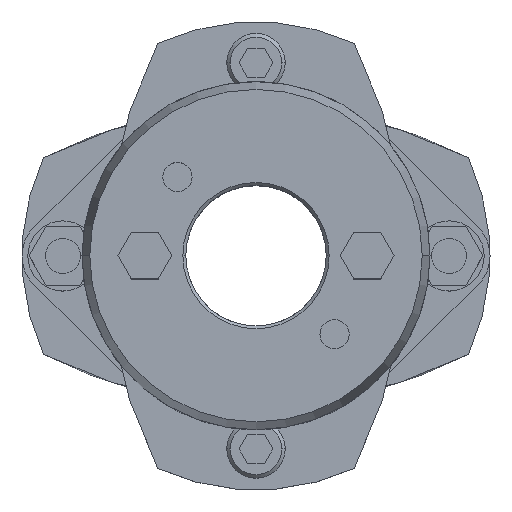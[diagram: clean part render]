
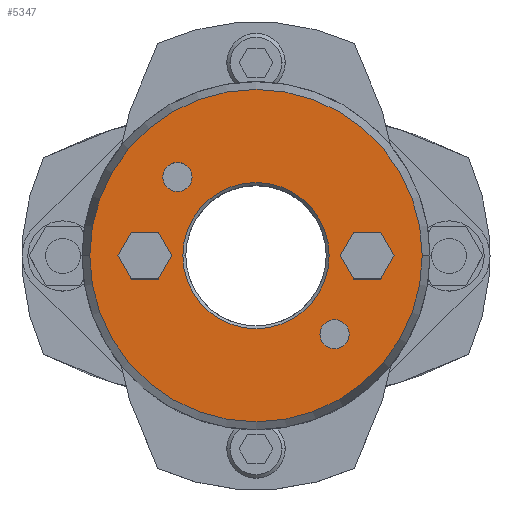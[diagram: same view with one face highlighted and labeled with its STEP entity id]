
A CAD part, top view. The second image highlights one B-rep face of the part: STEP entity #5347.
In plain terms, the highlighted planar face has unit normal (0, 0, 1).
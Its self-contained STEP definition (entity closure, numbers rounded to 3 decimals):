
#857=CARTESIAN_POINT('',(-12.5,0.,35.875));
#858=VERTEX_POINT('',#857);
#874=CARTESIAN_POINT('',(12.5,0.,35.875));
#875=VERTEX_POINT('',#874);
#882=CARTESIAN_POINT('',(0.,0.,35.875));
#883=DIRECTION('',(0.0,0.0,1.0));
#884=DIRECTION('',(-1.0,0.0,0.0));
#885=AXIS2_PLACEMENT_3D('',#882,#883,#884);
#886=CIRCLE('',#885,12.5);
#887=EDGE_CURVE('',#875,#858,#886,.T.);
#1003=CARTESIAN_POINT('',(28.41,0.,35.875));
#1004=VERTEX_POINT('',#1003);
#1013=CARTESIAN_POINT('',(-28.41,0.,35.875));
#1014=VERTEX_POINT('',#1013);
#1015=CARTESIAN_POINT('',(0.,0.,35.875));
#1016=DIRECTION('',(0.0,0.0,-1.0));
#1017=DIRECTION('',(1.0,0.0,0.0));
#1018=AXIS2_PLACEMENT_3D('',#1015,#1016,#1017);
#1019=CIRCLE('',#1018,28.41);
#1020=EDGE_CURVE('',#1004,#1014,#1019,.T.);
#1189=CARTESIAN_POINT('',(-15.935,13.435,35.875));
#1190=VERTEX_POINT('',#1189);
#1206=CARTESIAN_POINT('',(-10.935,13.435,35.875));
#1207=VERTEX_POINT('',#1206);
#1214=CARTESIAN_POINT('',(-13.435,13.435,35.875));
#1215=DIRECTION('',(0.0,0.0,-1.0));
#1216=DIRECTION('',(-1.0,0.0,0.0));
#1217=AXIS2_PLACEMENT_3D('',#1214,#1215,#1216);
#1218=CIRCLE('',#1217,2.5);
#1219=EDGE_CURVE('',#1190,#1207,#1218,.T.);
#1231=CARTESIAN_POINT('',(10.935,-13.435,35.875));
#1232=VERTEX_POINT('',#1231);
#1248=CARTESIAN_POINT('',(15.935,-13.435,35.875));
#1249=VERTEX_POINT('',#1248);
#1256=CARTESIAN_POINT('',(13.435,-13.435,35.875));
#1257=DIRECTION('',(0.0,0.0,-1.0));
#1258=DIRECTION('',(-1.0,0.0,0.0));
#1259=AXIS2_PLACEMENT_3D('',#1256,#1257,#1258);
#1260=CIRCLE('',#1259,2.5);
#1261=EDGE_CURVE('',#1232,#1249,#1260,.T.);
#4473=CARTESIAN_POINT('',(14.381,0.,35.875));
#4474=VERTEX_POINT('',#4473);
#4481=CARTESIAN_POINT('',(16.691,-4.,35.875));
#4482=VERTEX_POINT('',#4481);
#4483=CARTESIAN_POINT('',(16.691,-4.,35.875));
#4484=DIRECTION('',(-0.5,0.866,0.0));
#4485=VECTOR('',#4484,4.619);
#4486=LINE('',#4483,#4485);
#4487=EDGE_CURVE('',#4482,#4474,#4486,.T.);
#4511=CARTESIAN_POINT('',(16.691,4.,35.875));
#4512=VERTEX_POINT('',#4511);
#4519=CARTESIAN_POINT('',(14.381,0.,35.875));
#4520=DIRECTION('',(0.5,0.866,0.0));
#4521=VECTOR('',#4520,4.619);
#4522=LINE('',#4519,#4521);
#4523=EDGE_CURVE('',#4474,#4512,#4522,.T.);
#4542=CARTESIAN_POINT('',(21.309,4.,35.875));
#4543=VERTEX_POINT('',#4542);
#4550=CARTESIAN_POINT('',(16.691,4.,35.875));
#4551=DIRECTION('',(1.0,0.0,0.0));
#4552=VECTOR('',#4551,4.619);
#4553=LINE('',#4550,#4552);
#4554=EDGE_CURVE('',#4512,#4543,#4553,.T.);
#4573=CARTESIAN_POINT('',(23.619,0.,35.875));
#4574=VERTEX_POINT('',#4573);
#4581=CARTESIAN_POINT('',(21.309,4.,35.875));
#4582=DIRECTION('',(0.5,-0.866,0.0));
#4583=VECTOR('',#4582,4.619);
#4584=LINE('',#4581,#4583);
#4585=EDGE_CURVE('',#4543,#4574,#4584,.T.);
#4604=CARTESIAN_POINT('',(21.309,-4.,35.875));
#4605=VERTEX_POINT('',#4604);
#4612=CARTESIAN_POINT('',(23.619,0.,35.875));
#4613=DIRECTION('',(-0.5,-0.866,0.0));
#4614=VECTOR('',#4613,4.619);
#4615=LINE('',#4612,#4614);
#4616=EDGE_CURVE('',#4574,#4605,#4615,.T.);
#4634=CARTESIAN_POINT('',(21.309,-4.,35.875));
#4635=DIRECTION('',(-1.0,0.0,0.0));
#4636=VECTOR('',#4635,4.619);
#4637=LINE('',#4634,#4636);
#4638=EDGE_CURVE('',#4605,#4482,#4637,.T.);
#4673=CARTESIAN_POINT('',(-23.619,0.,35.875));
#4674=VERTEX_POINT('',#4673);
#4681=CARTESIAN_POINT('',(-21.309,-4.,35.875));
#4682=VERTEX_POINT('',#4681);
#4683=CARTESIAN_POINT('',(-21.309,-4.,35.875));
#4684=DIRECTION('',(-0.5,0.866,0.0));
#4685=VECTOR('',#4684,4.619);
#4686=LINE('',#4683,#4685);
#4687=EDGE_CURVE('',#4682,#4674,#4686,.T.);
#4711=CARTESIAN_POINT('',(-21.309,4.,35.875));
#4712=VERTEX_POINT('',#4711);
#4719=CARTESIAN_POINT('',(-23.619,0.,35.875));
#4720=DIRECTION('',(0.5,0.866,0.0));
#4721=VECTOR('',#4720,4.619);
#4722=LINE('',#4719,#4721);
#4723=EDGE_CURVE('',#4674,#4712,#4722,.T.);
#4742=CARTESIAN_POINT('',(-16.691,4.,35.875));
#4743=VERTEX_POINT('',#4742);
#4750=CARTESIAN_POINT('',(-21.309,4.,35.875));
#4751=DIRECTION('',(1.0,0.0,0.0));
#4752=VECTOR('',#4751,4.619);
#4753=LINE('',#4750,#4752);
#4754=EDGE_CURVE('',#4712,#4743,#4753,.T.);
#4773=CARTESIAN_POINT('',(-14.381,0.,35.875));
#4774=VERTEX_POINT('',#4773);
#4781=CARTESIAN_POINT('',(-16.691,4.,35.875));
#4782=DIRECTION('',(0.5,-0.866,0.0));
#4783=VECTOR('',#4782,4.619);
#4784=LINE('',#4781,#4783);
#4785=EDGE_CURVE('',#4743,#4774,#4784,.T.);
#4804=CARTESIAN_POINT('',(-16.691,-4.,35.875));
#4805=VERTEX_POINT('',#4804);
#4812=CARTESIAN_POINT('',(-14.381,0.,35.875));
#4813=DIRECTION('',(-0.5,-0.866,0.0));
#4814=VECTOR('',#4813,4.619);
#4815=LINE('',#4812,#4814);
#4816=EDGE_CURVE('',#4774,#4805,#4815,.T.);
#4834=CARTESIAN_POINT('',(-16.691,-4.,35.875));
#4835=DIRECTION('',(-1.0,0.0,0.0));
#4836=VECTOR('',#4835,4.619);
#4837=LINE('',#4834,#4836);
#4838=EDGE_CURVE('',#4805,#4682,#4837,.T.);
#4864=CARTESIAN_POINT('',(13.435,-13.435,35.875));
#4865=DIRECTION('',(0.0,0.0,-1.0));
#4866=DIRECTION('',(-1.0,0.0,0.0));
#4867=AXIS2_PLACEMENT_3D('',#4864,#4865,#4866);
#4868=CIRCLE('',#4867,2.5);
#4869=EDGE_CURVE('',#1249,#1232,#4868,.T.);
#4898=CARTESIAN_POINT('',(-13.435,13.435,35.875));
#4899=DIRECTION('',(0.0,0.0,-1.0));
#4900=DIRECTION('',(-1.0,0.0,0.0));
#4901=AXIS2_PLACEMENT_3D('',#4898,#4899,#4900);
#4902=CIRCLE('',#4901,2.5);
#4903=EDGE_CURVE('',#1207,#1190,#4902,.T.);
#5294=CARTESIAN_POINT('',(0.,0.,35.875));
#5295=DIRECTION('',(0.0,0.0,-1.0));
#5296=DIRECTION('',(1.0,0.0,0.0));
#5297=AXIS2_PLACEMENT_3D('',#5294,#5295,#5296);
#5298=CIRCLE('',#5297,28.41);
#5299=EDGE_CURVE('',#1014,#1004,#5298,.T.);
#5304=CARTESIAN_POINT('',(-2.364,0.,35.875));
#5305=DIRECTION('',(0.0,0.0,1.0));
#5306=DIRECTION('',(-1.0,0.0,0.0));
#5307=AXIS2_PLACEMENT_3D('',#5304,#5305,#5306);
#5308=PLANE('',#5307);
#5309=ORIENTED_EDGE('',*,*,#5299,.F.);
#5310=ORIENTED_EDGE('',*,*,#1020,.F.);
#5311=EDGE_LOOP('',(#5309,#5310));
#5312=FACE_OUTER_BOUND('',#5311,.T.);
#5313=ORIENTED_EDGE('',*,*,#4487,.T.);
#5314=ORIENTED_EDGE('',*,*,#4523,.T.);
#5315=ORIENTED_EDGE('',*,*,#4554,.T.);
#5316=ORIENTED_EDGE('',*,*,#4585,.T.);
#5317=ORIENTED_EDGE('',*,*,#4616,.T.);
#5318=ORIENTED_EDGE('',*,*,#4638,.T.);
#5319=EDGE_LOOP('',(#5313,#5314,#5315,#5316,#5317,#5318));
#5320=FACE_BOUND('',#5319,.T.);
#5321=ORIENTED_EDGE('',*,*,#4687,.T.);
#5322=ORIENTED_EDGE('',*,*,#4723,.T.);
#5323=ORIENTED_EDGE('',*,*,#4754,.T.);
#5324=ORIENTED_EDGE('',*,*,#4785,.T.);
#5325=ORIENTED_EDGE('',*,*,#4816,.T.);
#5326=ORIENTED_EDGE('',*,*,#4838,.T.);
#5327=EDGE_LOOP('',(#5321,#5322,#5323,#5324,#5325,#5326));
#5328=FACE_BOUND('',#5327,.T.);
#5329=ORIENTED_EDGE('',*,*,#1261,.T.);
#5330=ORIENTED_EDGE('',*,*,#4869,.T.);
#5331=EDGE_LOOP('',(#5329,#5330));
#5332=FACE_BOUND('',#5331,.T.);
#5333=ORIENTED_EDGE('',*,*,#1219,.T.);
#5334=ORIENTED_EDGE('',*,*,#4903,.T.);
#5335=EDGE_LOOP('',(#5333,#5334));
#5336=FACE_BOUND('',#5335,.T.);
#5337=ORIENTED_EDGE('',*,*,#887,.F.);
#5338=CARTESIAN_POINT('',(0.,0.,35.875));
#5339=DIRECTION('',(0.0,0.0,1.0));
#5340=DIRECTION('',(-1.0,0.0,0.0));
#5341=AXIS2_PLACEMENT_3D('',#5338,#5339,#5340);
#5342=CIRCLE('',#5341,12.5);
#5343=EDGE_CURVE('',#858,#875,#5342,.T.);
#5344=ORIENTED_EDGE('',*,*,#5343,.F.);
#5345=EDGE_LOOP('',(#5337,#5344));
#5346=FACE_BOUND('',#5345,.T.);
#5347=ADVANCED_FACE('',(#5312,#5320,#5328,#5332,#5336,#5346),#5308,.T.);
